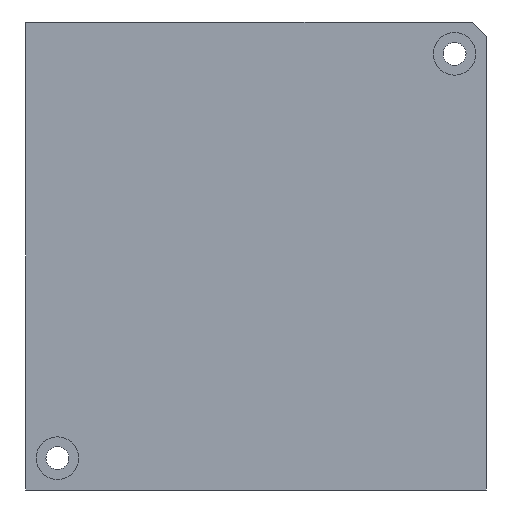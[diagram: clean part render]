
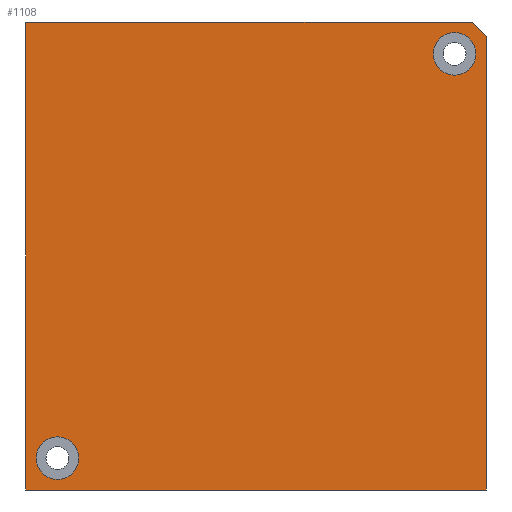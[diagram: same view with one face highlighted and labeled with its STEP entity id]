
A CAD part, front view. The second image highlights one B-rep face of the part: STEP entity #1108.
In plain terms, the highlighted planar face has unit normal (0, -1, 0).
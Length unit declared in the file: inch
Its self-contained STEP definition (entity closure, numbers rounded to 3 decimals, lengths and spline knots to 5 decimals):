
#28=FACE_BOUND('',#213,.T.);
#29=FACE_BOUND('',#214,.T.);
#73=PLANE('',#1229);
#136=FACE_OUTER_BOUND('',#212,.T.);
#212=EDGE_LOOP('',(#1020,#1021,#1022,#1023,#1024));
#213=EDGE_LOOP('',(#1025));
#214=EDGE_LOOP('',(#1026));
#305=LINE('',#1817,#417);
#310=LINE('',#1827,#422);
#321=LINE('',#1848,#433);
#325=LINE('',#1856,#437);
#326=LINE('',#1858,#438);
#417=VECTOR('',#1500,0.3937);
#422=VECTOR('',#1507,0.3937);
#433=VECTOR('',#1528,0.3937);
#437=VECTOR('',#1540,0.3937);
#438=VECTOR('',#1543,0.3937);
#465=CIRCLE('',#1184,0.04724);
#468=CIRCLE('',#1189,0.04724);
#537=VERTEX_POINT('',#1716);
#540=VERTEX_POINT('',#1725);
#566=VERTEX_POINT('',#1814);
#567=VERTEX_POINT('',#1816);
#570=VERTEX_POINT('',#1824);
#571=VERTEX_POINT('',#1826);
#576=VERTEX_POINT('',#1847);
#657=EDGE_CURVE('',#537,#537,#465,.T.);
#661=EDGE_CURVE('',#540,#540,#468,.T.);
#705=EDGE_CURVE('',#566,#567,#305,.T.);
#710=EDGE_CURVE('',#570,#571,#310,.T.);
#721=EDGE_CURVE('',#567,#576,#321,.T.);
#725=EDGE_CURVE('',#571,#566,#325,.T.);
#726=EDGE_CURVE('',#576,#570,#326,.T.);
#1020=ORIENTED_EDGE('',*,*,#721,.F.);
#1021=ORIENTED_EDGE('',*,*,#705,.F.);
#1022=ORIENTED_EDGE('',*,*,#725,.F.);
#1023=ORIENTED_EDGE('',*,*,#710,.F.);
#1024=ORIENTED_EDGE('',*,*,#726,.F.);
#1025=ORIENTED_EDGE('',*,*,#657,.T.);
#1026=ORIENTED_EDGE('',*,*,#661,.T.);
#1108=ADVANCED_FACE('',(#136,#28,#29),#73,.T.);
#1184=AXIS2_PLACEMENT_3D('',#1717,#1396,#1397);
#1189=AXIS2_PLACEMENT_3D('',#1726,#1407,#1408);
#1229=AXIS2_PLACEMENT_3D('',#1859,#1544,#1545);
#1396=DIRECTION('center_axis',(0.,1.,0.));
#1397=DIRECTION('ref_axis',(-1.,0.,0.));
#1407=DIRECTION('center_axis',(0.,1.,0.));
#1408=DIRECTION('ref_axis',(-1.,0.,0.));
#1500=DIRECTION('',(1.,0.,0.));
#1507=DIRECTION('',(-1.,0.,0.));
#1528=DIRECTION('',(0.707,0.,-0.707));
#1540=DIRECTION('',(0.,0.,1.));
#1543=DIRECTION('',(0.,0.,-1.));
#1544=DIRECTION('center_axis',(0.,-1.,0.));
#1545=DIRECTION('ref_axis',(0.,0.,-1.));
#1716=CARTESIAN_POINT('',(0.48326,0.,0.4656));
#1717=CARTESIAN_POINT('Origin',(0.43601,0.,0.4656));
#1725=CARTESIAN_POINT('',(-0.39863,0.,-0.43204));
#1726=CARTESIAN_POINT('Origin',(-0.44588,0.,-0.43204));
#1814=CARTESIAN_POINT('',(-0.51674,0.,0.53647));
#1816=CARTESIAN_POINT('',(0.47538,0.,0.53647));
#1817=CARTESIAN_POINT('',(-0.51674,0.,0.53647));
#1824=CARTESIAN_POINT('',(0.50688,0.,-0.5029));
#1826=CARTESIAN_POINT('',(-0.51674,0.,-0.5029));
#1827=CARTESIAN_POINT('',(0.50688,0.,-0.5029));
#1847=CARTESIAN_POINT('',(0.50688,0.,0.50497));
#1848=CARTESIAN_POINT('',(0.4931,0.,0.51875));
#1856=CARTESIAN_POINT('',(-0.51674,0.,-0.5029));
#1858=CARTESIAN_POINT('',(0.50688,0.,0.53647));
#1859=CARTESIAN_POINT('Origin',(-0.00493,0.,0.01678));
